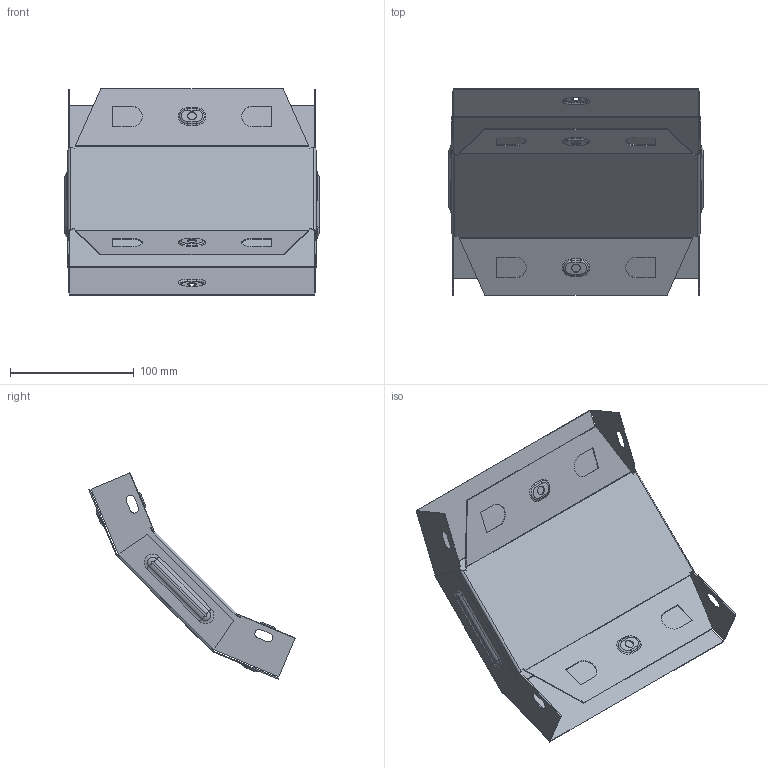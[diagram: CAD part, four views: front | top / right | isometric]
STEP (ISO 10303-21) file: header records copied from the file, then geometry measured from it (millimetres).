
FILE_DESCRIPTION (( 'STEP AP214' ), '1' );
FILE_NAME ('vo4535200_捘.STEP', '2019-06-10T08:16:00', ( '砐錪賧瘔蠈錪 Windows' ), ( '' ), 'SwSTEP 2.0', 'SolidWorks 2018', '' );
FILE_SCHEMA (( 'AUTOMOTIVE_DESIGN' ));
Length unit declared in the file: millimetre
Products named in the file (1): vo4535200_捘
Bounding box: 205.6 x 166.28 x 166.28 mm (x, y, z)
Volume: 79099 mm3; surface area: 200004.2 mm2
Topology: 2 solids, 2 shells, 368 faces, 906 edges, 564 vertices
Faces by surface type: plane 177, cylinder 110, torus 64, bspline 17
Entity records: 11466 total; most frequent: CARTESIAN_POINT 2595, DIRECTION 1860, ORIENTED_EDGE 1812, EDGE_CURVE 906, AXIS2_PLACEMENT_3D 652, VERTEX_POINT 564, VECTOR 556, LINE 556
